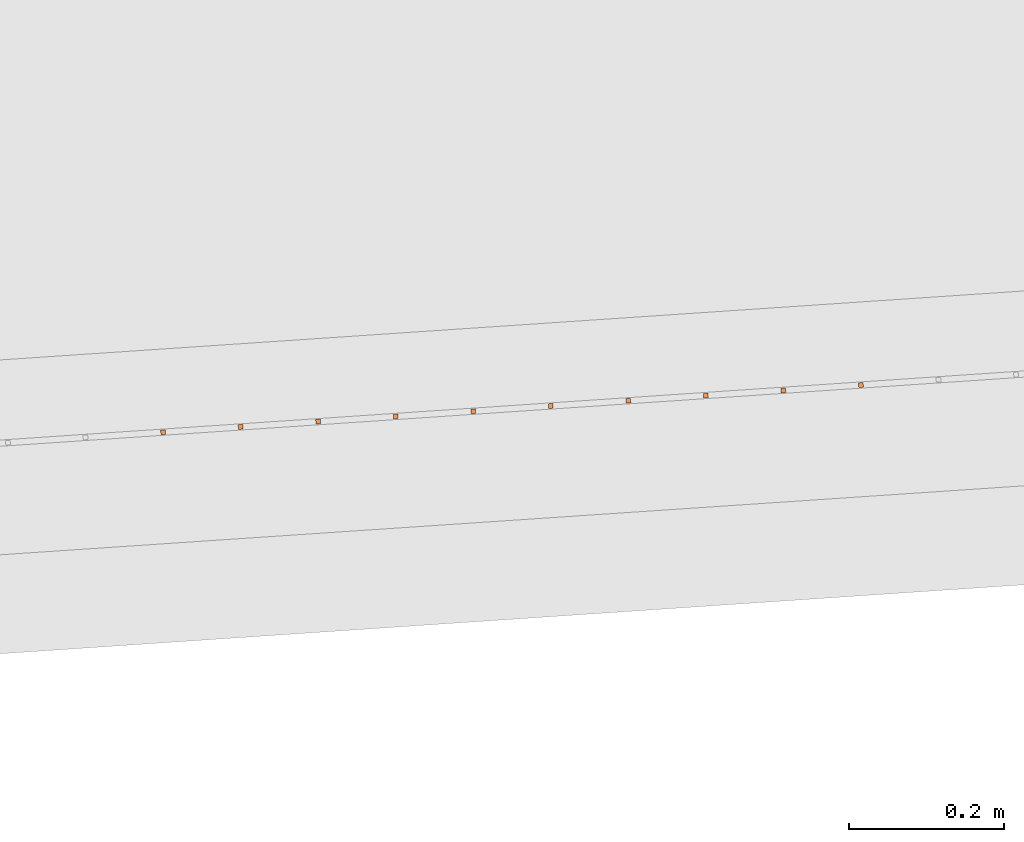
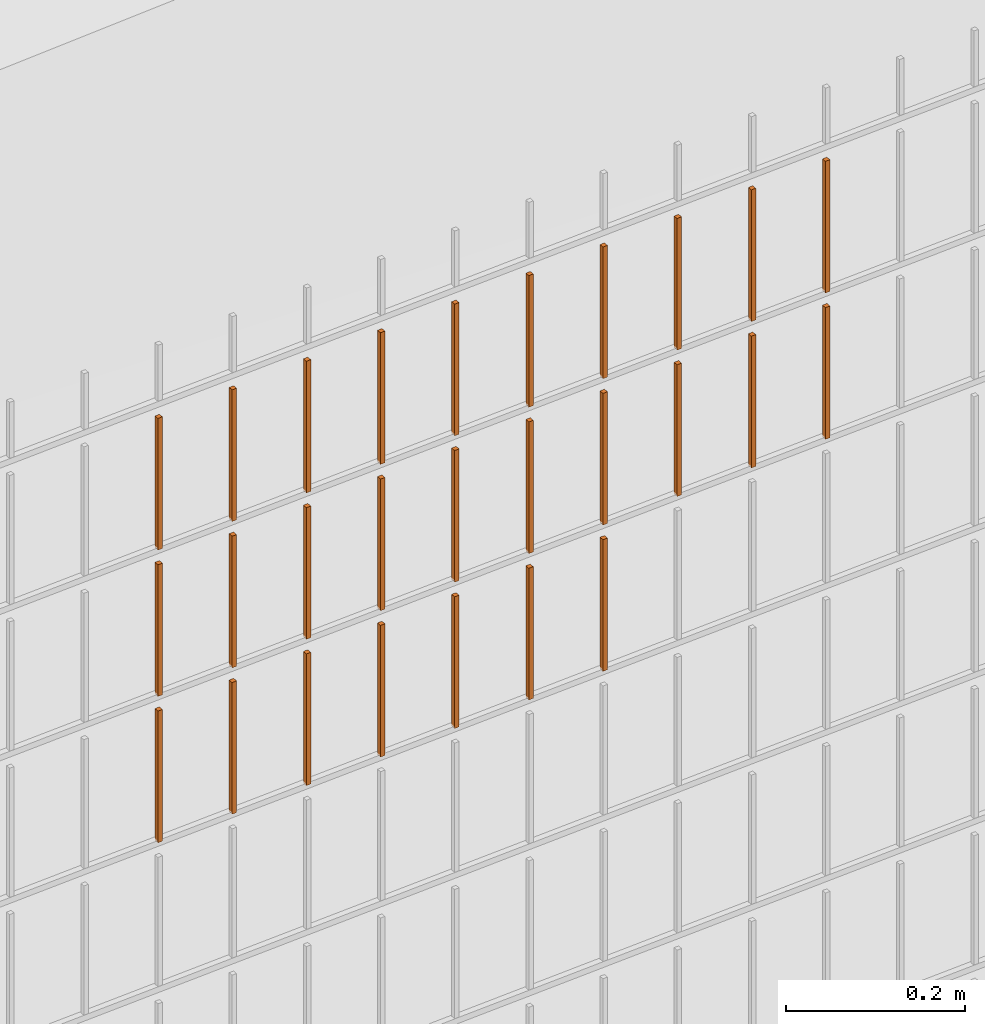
# One storey, part 312 of 1809: 27 proxies, 1 element without a shape of its own.
"""IFC2X3 building model written with IfcOpenShell, lengths in millimetres."""

from ifc_helpers import new_model, entity, si_unit, converted_unit, derived_unit, money_unit, direction, frame, origin_with_axes, place, context, subcontext, project, spatial, faceted_brep, source, transform, mapped, material, type_object, element, aggregate, save


model = new_model("IFC2X3")

# Units and contexts
model_context = context("Model", 3, precision=0.01, world=origin_with_axes(), true_north=direction((0.0, 1.0)))
body_context = subcontext(model_context, "Body", "Model", "MODEL_VIEW")
ifc_project = project(units=[si_unit("LENGTHUNIT", "METRE", prefix="MILLI"), si_unit("AREAUNIT", "SQUARE_METRE"), si_unit("VOLUMEUNIT", "CUBIC_METRE"), converted_unit("PLANEANGLEUNIT", "DEGREE", entity("IfcPlaneAngleMeasure", 0.0174532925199), si_unit("PLANEANGLEUNIT", "RADIAN"), dimensions=[0, 0, 0, 0, 0, 0, 0]), si_unit("SOLIDANGLEUNIT", "STERADIAN"), money_unit("EUR"), converted_unit("TIMEUNIT", "Year", entity("IfcTimeMeasure", 31556926.0), si_unit("TIMEUNIT", "SECOND"), dimensions=[0, 0, 1, 0, 0, 0, 0]), si_unit("MASSUNIT", "GRAM", prefix="KILO"), si_unit("THERMODYNAMICTEMPERATUREUNIT", "DEGREE_CELSIUS"), si_unit("LUMINOUSINTENSITYUNIT", "LUMEN"), si_unit("ENERGYUNIT", "JOULE", prefix="MEGA"), derived_unit("THERMALCONDUCTANCEUNIT", [(si_unit("POWERUNIT", "WATT"), 1), (si_unit("LENGTHUNIT", "METRE"), -1), (si_unit("THERMODYNAMICTEMPERATUREUNIT", "KELVIN"), -1)]), derived_unit("SPECIFICHEATCAPACITYUNIT", [(si_unit("ENERGYUNIT", "JOULE"), 1), (si_unit("MASSUNIT", "GRAM", prefix="KILO"), -1), (si_unit("THERMODYNAMICTEMPERATUREUNIT", "KELVIN"), -1)]), derived_unit("MASSDENSITYUNIT", [(si_unit("MASSUNIT", "GRAM", prefix="KILO"), 1), (si_unit("VOLUMEUNIT", "CUBIC_METRE"), -1)])], contexts=[model_context])

# Site, building, storey
site_placement = place(None, origin_with_axes())
site = spatial("IfcSite", under=ifc_project, at=site_placement, Name="Politse- ja Piirivalveameti ning Päästeameti ühishoone", CompositionType="ELEMENT")
building_placement = place(site_placement, origin_with_axes())
building = spatial("IfcBuilding", under=site, at=building_placement, Name="Politse- ja Piirivalveameti ning Päästeameti ühishoone", CompositionType="ELEMENT")
storey_placement = place(building_placement, origin_with_axes())
storey = spatial("IfcBuildingStorey", under=building, at=storey_placement, Name="Esimene korrus", CompositionType="ELEMENT", Elevation=0.0)

# Proxies
building_element_proxy_type_1 = type_object("IfcBuildingElementProxyType", Name="Railing Type", PredefinedType="NOTDEFINED")
proxy_1_placement = place(storey_placement, frame((89252.001212, -29183.4766571, 203.661247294), z_axis=(0.0, 0.0, 1.0), x_axis=(1.0, 0.0, 0.0)))
proxy_1 = element("IfcBuildingElementProxy", 1, at=proxy_1_placement, inside=storey, type_object=building_element_proxy_type_1, Name="PIIRDEAED")
ifc_material = material(Name="ET-03_Raud")
building_element_proxy_type_2 = type_object("IfcBuildingElementProxyType", Name="IfcBuildingElementProxy", PredefinedType="NOTDEFINED")
shared_shape_1 = source(origin_with_axes(), body_context, "Body", "Brep", [
    faceted_brep([(3.0, 3.0, -0.000752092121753), (-3.0, 3.0, -0.000752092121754), (-3.0, 3.0, 179.99926046), (3.0, 3.0, 179.99926046), (3.0, -3.0, 0.000752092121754), (-3.0, -3.0, 0.000752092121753), (-3.0, -3.0, 180.000764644), (3.0, -3.0, 180.000764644)], [[[0, 1, 2, 3]], [[0, 4, 5, 1]], [[1, 5, 6, 2]], [[3, 2, 6, 7]], [[4, 0, 3, 7]], [[5, 4, 7, 6]]]),
])
proxy_2_placement = place(proxy_1_placement, frame((-41033.1876878, -20069.4117363, 1416.92403284), z_axis=(0.0, 0.0, 1.0), x_axis=(1.0, 0.0, 0.0)))
proxy_2 = element("IfcBuildingElementProxy", 2, at=proxy_2_placement, type_object=building_element_proxy_type_2, material=ifc_material, Name="BALUSTER - 001", context=body_context, shape_type="MappedRepresentation", body=[
    mapped(shared_shape_1, transform((0.0, 0.0, 0.0), x_axis=(-0.0673926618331, 0.997726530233, 0.0), y_axis=(-0.997726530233, -0.0673926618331, 0.0), z_axis=(0.0, 0.0, 1.0))),
])
shared_shape_2 = source(origin_with_axes(), body_context, "Body", "Brep", [
    faceted_brep([(3.0, 3.0, -0.000752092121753), (-3.0, 3.0, -0.000752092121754), (-3.0, 3.0, 179.99926046), (3.0, 3.0, 179.99926046), (3.0, -3.0, 0.000752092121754), (-3.0, -3.0, 0.000752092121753), (-3.0, -3.0, 180.000764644), (3.0, -3.0, 180.000764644)], [[[0, 1, 2, 3]], [[0, 4, 5, 1]], [[1, 5, 6, 2]], [[3, 2, 6, 7]], [[4, 0, 3, 7]], [[5, 4, 7, 6]]]),
])
proxy_3_placement = place(proxy_1_placement, frame((-41033.1876878, -20069.4117363, 1816.92403284), z_axis=(0.0, 0.0, 1.0), x_axis=(1.0, 0.0, 0.0)))
proxy_3 = element("IfcBuildingElementProxy", 3, at=proxy_3_placement, type_object=building_element_proxy_type_2, material=ifc_material, Name="BALUSTER - 001", context=body_context, shape_type="MappedRepresentation", body=[
    mapped(shared_shape_2, transform((0.0, 0.0, 0.0), x_axis=(-0.0673926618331, 0.997726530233, 0.0), y_axis=(-0.997726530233, -0.0673926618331, 0.0), z_axis=(0.0, 0.0, 1.0))),
])
shared_shape_3 = source(origin_with_axes(), body_context, "Body", "Brep", [
    faceted_brep([(3.0, 3.0, -0.000752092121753), (-3.0, 3.0, -0.000752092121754), (-3.0, 3.0, 179.99926046), (3.0, 3.0, 179.99926046), (3.0, -3.0, 0.000752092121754), (-3.0, -3.0, 0.000752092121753), (-3.0, -3.0, 180.000764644), (3.0, -3.0, 180.000764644)], [[[0, 1, 2, 3]], [[0, 4, 5, 1]], [[1, 5, 6, 2]], [[3, 2, 6, 7]], [[4, 0, 3, 7]], [[5, 4, 7, 6]]]),
])
proxy_4_placement = place(proxy_1_placement, frame((-41033.1876878, -20069.4117363, 1616.92403284), z_axis=(0.0, 0.0, 1.0), x_axis=(1.0, 0.0, 0.0)))
proxy_4 = element("IfcBuildingElementProxy", 4, at=proxy_4_placement, type_object=building_element_proxy_type_2, material=ifc_material, Name="BALUSTER - 001", context=body_context, shape_type="MappedRepresentation", body=[
    mapped(shared_shape_3, transform((0.0, 0.0, 0.0), x_axis=(-0.0673926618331, 0.997726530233, 0.0), y_axis=(-0.997726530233, -0.0673926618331, 0.0), z_axis=(0.0, 0.0, 1.0))),
])
shared_shape_4 = source(origin_with_axes(), body_context, "Body", "Brep", [
    faceted_brep([(3.0, 3.0, -0.000752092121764), (-3.0, 3.0, -0.000752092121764), (-3.0, 3.0, 179.99926046), (3.0, 3.0, 179.99926046), (3.0, -3.0, 0.000752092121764), (-3.0, -3.0, 0.000752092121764), (-3.0, -3.0, 180.000764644), (3.0, -3.0, 180.000764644)], [[[0, 1, 2, 3]], [[0, 4, 5, 1]], [[1, 5, 6, 2]], [[3, 2, 6, 7]], [[4, 0, 3, 7]], [[5, 4, 7, 6]]]),
])
proxy_5_placement = place(proxy_1_placement, frame((-40933.4150347, -20062.6724701, 1616.94910258), z_axis=(0.0, 0.0, 1.0), x_axis=(1.0, 0.0, 0.0)))
proxy_5 = element("IfcBuildingElementProxy", 5, at=proxy_5_placement, type_object=building_element_proxy_type_2, material=ifc_material, Name="BALUSTER - 001", context=body_context, shape_type="MappedRepresentation", body=[
    mapped(shared_shape_4, transform((0.0, 0.0, 0.0), x_axis=(-0.0673926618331, 0.997726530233, 0.0), y_axis=(-0.997726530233, -0.0673926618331, 0.0), z_axis=(0.0, 0.0, 1.0))),
])
proxy_6_placement = place(proxy_1_placement, frame((-40235.0064636, -20015.4976068, 1817.12459074), z_axis=(0.0, 0.0, 1.0), x_axis=(1.0, 0.0, 0.0)))
proxy_6 = element("IfcBuildingElementProxy", 6, at=proxy_6_placement, type_object=building_element_proxy_type_2, material=ifc_material, Name="BALUSTER - 001", context=body_context, shape_type="MappedRepresentation", body=[
    mapped(shared_shape_4, transform((0.0, 0.0, 0.0), x_axis=(-0.0673926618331, 0.997726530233, 0.0), y_axis=(-0.997726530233, -0.0673926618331, 0.0), z_axis=(0.0, 0.0, 1.0))),
])
proxy_7_placement = place(proxy_1_placement, frame((-40833.6423817, -20055.9332039, 1816.97417231), z_axis=(0.0, 0.0, 1.0), x_axis=(1.0, 0.0, 0.0)))
proxy_7 = element("IfcBuildingElementProxy", 7, at=proxy_7_placement, type_object=building_element_proxy_type_2, material=ifc_material, Name="BALUSTER - 001", context=body_context, shape_type="MappedRepresentation", body=[
    mapped(shared_shape_4, transform((0.0, 0.0, 0.0), x_axis=(-0.0673926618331, 0.997726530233, 0.0), y_axis=(-0.997726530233, -0.0673926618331, 0.0), z_axis=(0.0, 0.0, 1.0))),
])
shared_shape_5 = source(origin_with_axes(), body_context, "Body", "Brep", [
    faceted_brep([(3.0, 3.0, -0.000752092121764), (-3.0, 3.0, -0.000752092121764), (-3.0, 3.0, 179.99926046), (3.0, 3.0, 179.99926046), (3.0, -3.0, 0.000752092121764), (-3.0, -3.0, 0.000752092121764), (-3.0, -3.0, 180.000764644), (3.0, -3.0, 180.000764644)], [[[0, 1, 2, 3]], [[0, 4, 5, 1]], [[1, 5, 6, 2]], [[3, 2, 6, 7]], [[4, 0, 3, 7]], [[5, 4, 7, 6]]]),
])
proxy_8_placement = place(proxy_1_placement, frame((-40534.3244226, -20035.7154053, 1417.04938153), z_axis=(0.0, 0.0, 1.0), x_axis=(1.0, 0.0, 0.0)))
proxy_8 = element("IfcBuildingElementProxy", 8, at=proxy_8_placement, type_object=building_element_proxy_type_2, material=ifc_material, Name="BALUSTER - 001", context=body_context, shape_type="MappedRepresentation", body=[
    mapped(shared_shape_5, transform((0.0, 0.0, 0.0), x_axis=(-0.0673926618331, 0.997726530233, 0.0), y_axis=(-0.997726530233, -0.0673926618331, 0.0), z_axis=(0.0, 0.0, 1.0))),
])
shared_shape_6 = source(origin_with_axes(), body_context, "Body", "Brep", [
    faceted_brep([(3.0, 3.0, -0.000752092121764), (-3.0, 3.0, -0.000752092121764), (-3.0, 3.0, 179.99926046), (3.0, 3.0, 179.99926046), (3.0, -3.0, 0.000752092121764), (-3.0, -3.0, 0.000752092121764), (-3.0, -3.0, 180.000764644), (3.0, -3.0, 180.000764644)], [[[0, 1, 2, 3]], [[0, 4, 5, 1]], [[1, 5, 6, 2]], [[3, 2, 6, 7]], [[4, 0, 3, 7]], [[5, 4, 7, 6]]]),
])
proxy_9_placement = place(proxy_1_placement, frame((-40534.3244226, -20035.7154053, 1817.04938153), z_axis=(0.0, 0.0, 1.0), x_axis=(1.0, 0.0, 0.0)))
proxy_9 = element("IfcBuildingElementProxy", 9, at=proxy_9_placement, type_object=building_element_proxy_type_2, material=ifc_material, Name="BALUSTER - 001", context=body_context, shape_type="MappedRepresentation", body=[
    mapped(shared_shape_6, transform((0.0, 0.0, 0.0), x_axis=(-0.0673926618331, 0.997726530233, 0.0), y_axis=(-0.997726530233, -0.0673926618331, 0.0), z_axis=(0.0, 0.0, 1.0))),
])
shared_shape_7 = source(origin_with_axes(), body_context, "Body", "Brep", [
    faceted_brep([(3.0, 3.0, -0.000752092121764), (-3.0, 3.0, -0.000752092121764), (-3.0, 3.0, 179.99926046), (3.0, 3.0, 179.99926046), (3.0, -3.0, 0.000752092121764), (-3.0, -3.0, 0.000752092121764), (-3.0, -3.0, 180.000764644), (3.0, -3.0, 180.000764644)], [[[0, 1, 2, 3]], [[0, 4, 5, 1]], [[1, 5, 6, 2]], [[3, 2, 6, 7]], [[4, 0, 3, 7]], [[5, 4, 7, 6]]]),
])
proxy_10_placement = place(proxy_1_placement, frame((-40235.0064636, -20015.4976068, 1617.12459074), z_axis=(0.0, 0.0, 1.0), x_axis=(1.0, 0.0, 0.0)))
proxy_10 = element("IfcBuildingElementProxy", 10, at=proxy_10_placement, type_object=building_element_proxy_type_2, material=ifc_material, Name="BALUSTER - 001", context=body_context, shape_type="MappedRepresentation", body=[
    mapped(shared_shape_7, transform((0.0, 0.0, 0.0), x_axis=(-0.0673926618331, 0.997726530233, 0.0), y_axis=(-0.997726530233, -0.0673926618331, 0.0), z_axis=(0.0, 0.0, 1.0))),
])
proxy_11_placement = place(proxy_1_placement, frame((-40933.4150347, -20062.6724701, 1816.94910258), z_axis=(0.0, 0.0, 1.0), x_axis=(1.0, 0.0, 0.0)))
proxy_11 = element("IfcBuildingElementProxy", 11, at=proxy_11_placement, type_object=building_element_proxy_type_2, material=ifc_material, Name="BALUSTER - 001", context=body_context, shape_type="MappedRepresentation", body=[
    mapped(shared_shape_7, transform((0.0, 0.0, 0.0), x_axis=(-0.0673926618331, 0.997726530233, 0.0), y_axis=(-0.997726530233, -0.0673926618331, 0.0), z_axis=(0.0, 0.0, 1.0))),
])
shared_shape_8 = source(origin_with_axes(), body_context, "Body", "Brep", [
    faceted_brep([(3.0, 3.0, -0.000752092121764), (-3.0, 3.0, -0.000752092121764), (-3.0, 3.0, 179.99926046), (3.0, 3.0, 179.99926046), (3.0, -3.0, 0.000752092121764), (-3.0, -3.0, 0.000752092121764), (-3.0, -3.0, 180.000764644), (3.0, -3.0, 180.000764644)], [[[0, 1, 2, 3]], [[0, 4, 5, 1]], [[1, 5, 6, 2]], [[3, 2, 6, 7]], [[4, 0, 3, 7]], [[5, 4, 7, 6]]]),
])
proxy_12_placement = place(proxy_1_placement, frame((-40534.3244226, -20035.7154053, 1617.04938153), z_axis=(0.0, 0.0, 1.0), x_axis=(1.0, 0.0, 0.0)))
proxy_12 = element("IfcBuildingElementProxy", 12, at=proxy_12_placement, type_object=building_element_proxy_type_2, material=ifc_material, Name="BALUSTER - 001", context=body_context, shape_type="MappedRepresentation", body=[
    mapped(shared_shape_8, transform((0.0, 0.0, 0.0), x_axis=(-0.0673926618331, 0.997726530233, 0.0), y_axis=(-0.997726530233, -0.0673926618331, 0.0), z_axis=(0.0, 0.0, 1.0))),
])
shared_shape_9 = source(origin_with_axes(), body_context, "Body", "Brep", [
    faceted_brep([(3.0, 3.0, -0.000752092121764), (-3.0, 3.0, -0.000752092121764), (-3.0, 3.0, 179.99926046), (3.0, 3.0, 179.99926046), (3.0, -3.0, 0.000752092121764), (-3.0, -3.0, 0.000752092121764), (-3.0, -3.0, 180.000764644), (3.0, -3.0, 180.000764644)], [[[0, 1, 2, 3]], [[0, 4, 5, 1]], [[1, 5, 6, 2]], [[3, 2, 6, 7]], [[4, 0, 3, 7]], [[5, 4, 7, 6]]]),
])
proxy_13_placement = place(proxy_1_placement, frame((-40933.4150347, -20062.6724701, 1416.94910258), z_axis=(0.0, 0.0, 1.0), x_axis=(1.0, 0.0, 0.0)))
proxy_13 = element("IfcBuildingElementProxy", 13, at=proxy_13_placement, type_object=building_element_proxy_type_2, material=ifc_material, Name="BALUSTER - 001", context=body_context, shape_type="MappedRepresentation", body=[
    mapped(shared_shape_9, transform((0.0, 0.0, 0.0), x_axis=(-0.0673926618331, 0.997726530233, 0.0), y_axis=(-0.997726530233, -0.0673926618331, 0.0), z_axis=(0.0, 0.0, 1.0))),
])
shared_shape_10 = source(origin_with_axes(), body_context, "Body", "Brep", [
    faceted_brep([(3.0, 3.0, -0.000752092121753), (-3.0, 3.0, -0.000752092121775), (-3.0, 3.0, 179.99926046), (3.0, 3.0, 179.99926046), (3.0, -3.0, 0.000752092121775), (-3.0, -3.0, 0.000752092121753), (-3.0, -3.0, 180.000764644), (3.0, -3.0, 180.000764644)], [[[0, 1, 2, 3]], [[0, 4, 5, 1]], [[1, 5, 6, 2]], [[3, 2, 6, 7]], [[4, 0, 3, 7]], [[5, 4, 7, 6]]]),
])
proxy_14_placement = place(proxy_1_placement, frame((-41132.9603408, -20076.1510024, 1816.8989631), z_axis=(0.0, 0.0, 1.0), x_axis=(1.0, 0.0, 0.0)))
proxy_14 = element("IfcBuildingElementProxy", 14, at=proxy_14_placement, type_object=building_element_proxy_type_2, material=ifc_material, Name="BALUSTER - 001", context=body_context, shape_type="MappedRepresentation", body=[
    mapped(shared_shape_10, transform((0.0, 0.0, 0.0), x_axis=(-0.0673926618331, 0.997726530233, 0.0), y_axis=(-0.997726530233, -0.0673926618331, 0.0), z_axis=(0.0, 0.0, 1.0))),
])
shared_shape_11 = source(origin_with_axes(), body_context, "Body", "Brep", [
    faceted_brep([(3.0, 3.0, -0.000752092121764), (-3.0, 3.0, -0.000752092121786), (-3.0, 3.0, 179.99926046), (3.0, 3.0, 179.99926046), (3.0, -3.0, 0.000752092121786), (-3.0, -3.0, 0.000752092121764), (-3.0, -3.0, 180.000764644), (3.0, -3.0, 180.000764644)], [[[0, 1, 2, 3]], [[0, 4, 5, 1]], [[1, 5, 6, 2]], [[3, 2, 6, 7]], [[4, 0, 3, 7]], [[5, 4, 7, 6]]]),
])
proxy_15_placement = place(proxy_1_placement, frame((-40434.5517696, -20028.9761392, 1817.07445126), z_axis=(0.0, 0.0, 1.0), x_axis=(1.0, 0.0, 0.0)))
proxy_15 = element("IfcBuildingElementProxy", 15, at=proxy_15_placement, type_object=building_element_proxy_type_2, material=ifc_material, Name="BALUSTER - 001", context=body_context, shape_type="MappedRepresentation", body=[
    mapped(shared_shape_11, transform((0.0, 0.0, 0.0), x_axis=(-0.0673926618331, 0.997726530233, 0.0), y_axis=(-0.997726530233, -0.0673926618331, 0.0), z_axis=(0.0, 0.0, 1.0))),
])
shared_shape_12 = source(origin_with_axes(), body_context, "Body", "Brep", [
    faceted_brep([(3.0, 3.0, -0.000752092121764), (-3.0, 3.0, -0.000752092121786), (-3.0, 3.0, 179.99926046), (3.0, 3.0, 179.99926046), (3.0, -3.0, 0.000752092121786), (-3.0, -3.0, 0.000752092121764), (-3.0, -3.0, 180.000764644), (3.0, -3.0, 180.000764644)], [[[0, 1, 2, 3]], [[0, 4, 5, 1]], [[1, 5, 6, 2]], [[3, 2, 6, 7]], [[4, 0, 3, 7]], [[5, 4, 7, 6]]]),
])
proxy_16_placement = place(proxy_1_placement, frame((-40434.5517696, -20028.9761392, 1617.07445126), z_axis=(0.0, 0.0, 1.0), x_axis=(1.0, 0.0, 0.0)))
proxy_16 = element("IfcBuildingElementProxy", 16, at=proxy_16_placement, type_object=building_element_proxy_type_2, material=ifc_material, Name="BALUSTER - 001", context=body_context, shape_type="MappedRepresentation", body=[
    mapped(shared_shape_12, transform((0.0, 0.0, 0.0), x_axis=(-0.0673926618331, 0.997726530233, 0.0), y_axis=(-0.997726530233, -0.0673926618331, 0.0), z_axis=(0.0, 0.0, 1.0))),
])
shared_shape_13 = source(origin_with_axes(), body_context, "Body", "Brep", [
    faceted_brep([(3.0, 3.0, -0.000752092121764), (-3.0, 3.0, -0.000752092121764), (-3.0, 3.0, 179.99926046), (3.0, 3.0, 179.99926046), (3.0, -3.0, 0.000752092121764), (-3.0, -3.0, 0.000752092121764), (-3.0, -3.0, 180.000764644), (3.0, -3.0, 180.000764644)], [[[0, 1, 2, 3]], [[0, 4, 5, 1]], [[1, 5, 6, 2]], [[3, 2, 6, 7]], [[4, 0, 3, 7]], [[5, 4, 7, 6]]]),
])
proxy_17_placement = place(proxy_1_placement, frame((-40733.8697287, -20049.1939377, 1816.99924205), z_axis=(0.0, 0.0, 1.0), x_axis=(1.0, 0.0, 0.0)))
proxy_17 = element("IfcBuildingElementProxy", 17, at=proxy_17_placement, type_object=building_element_proxy_type_2, material=ifc_material, Name="BALUSTER - 001", context=body_context, shape_type="MappedRepresentation", body=[
    mapped(shared_shape_13, transform((0.0, 0.0, 0.0), x_axis=(-0.0673926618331, 0.997726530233, 0.0), y_axis=(-0.997726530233, -0.0673926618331, 0.0), z_axis=(0.0, 0.0, 1.0))),
])
shared_shape_14 = source(origin_with_axes(), body_context, "Body", "Brep", [
    faceted_brep([(3.0, 3.0, -0.000752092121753), (-3.0, 3.0, -0.000752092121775), (-3.0, 3.0, 179.99926046), (3.0, 3.0, 179.99926046), (3.0, -3.0, 0.000752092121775), (-3.0, -3.0, 0.000752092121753), (-3.0, -3.0, 180.000764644), (3.0, -3.0, 180.000764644)], [[[0, 1, 2, 3]], [[0, 4, 5, 1]], [[1, 5, 6, 2]], [[3, 2, 6, 7]], [[4, 0, 3, 7]], [[5, 4, 7, 6]]]),
])
proxy_18_placement = place(proxy_1_placement, frame((-40634.0970757, -20042.4546715, 1817.02431179), z_axis=(0.0, 0.0, 1.0), x_axis=(1.0, 0.0, 0.0)))
proxy_18 = element("IfcBuildingElementProxy", 18, at=proxy_18_placement, type_object=building_element_proxy_type_2, material=ifc_material, Name="BALUSTER - 001", context=body_context, shape_type="MappedRepresentation", body=[
    mapped(shared_shape_14, transform((0.0, 0.0, 0.0), x_axis=(-0.0673926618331, 0.997726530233, 0.0), y_axis=(-0.997726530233, -0.0673926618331, 0.0), z_axis=(0.0, 0.0, 1.0))),
])
shared_shape_15 = source(origin_with_axes(), body_context, "Body", "Brep", [
    faceted_brep([(3.0, 3.0, -0.000752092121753), (-3.0, 3.0, -0.000752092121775), (-3.0, 3.0, 179.99926046), (3.0, 3.0, 179.99926046), (3.0, -3.0, 0.000752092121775), (-3.0, -3.0, 0.000752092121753), (-3.0, -3.0, 180.000764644), (3.0, -3.0, 180.000764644)], [[[0, 1, 2, 3]], [[0, 4, 5, 1]], [[1, 5, 6, 2]], [[3, 2, 6, 7]], [[4, 0, 3, 7]], [[5, 4, 7, 6]]]),
])
proxy_19_placement = place(proxy_1_placement, frame((-40634.0970757, -20042.4546715, 1417.02431179), z_axis=(0.0, 0.0, 1.0), x_axis=(1.0, 0.0, 0.0)))
proxy_19 = element("IfcBuildingElementProxy", 19, at=proxy_19_placement, type_object=building_element_proxy_type_2, material=ifc_material, Name="BALUSTER - 001", context=body_context, shape_type="MappedRepresentation", body=[
    mapped(shared_shape_15, transform((0.0, 0.0, 0.0), x_axis=(-0.0673926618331, 0.997726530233, 0.0), y_axis=(-0.997726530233, -0.0673926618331, 0.0), z_axis=(0.0, 0.0, 1.0))),
])
shared_shape_16 = source(origin_with_axes(), body_context, "Body", "Brep", [
    faceted_brep([(3.0, 3.0, -0.000752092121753), (-3.0, 3.0, -0.000752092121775), (-3.0, 3.0, 179.99926046), (3.0, 3.0, 179.99926046), (3.0, -3.0, 0.000752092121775), (-3.0, -3.0, 0.000752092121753), (-3.0, -3.0, 180.000764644), (3.0, -3.0, 180.000764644)], [[[0, 1, 2, 3]], [[0, 4, 5, 1]], [[1, 5, 6, 2]], [[3, 2, 6, 7]], [[4, 0, 3, 7]], [[5, 4, 7, 6]]]),
])
proxy_20_placement = place(proxy_1_placement, frame((-41132.9603408, -20076.1510024, 1416.8989631), z_axis=(0.0, 0.0, 1.0), x_axis=(1.0, 0.0, 0.0)))
proxy_20 = element("IfcBuildingElementProxy", 20, at=proxy_20_placement, type_object=building_element_proxy_type_2, material=ifc_material, Name="BALUSTER - 001", context=body_context, shape_type="MappedRepresentation", body=[
    mapped(shared_shape_16, transform((0.0, 0.0, 0.0), x_axis=(-0.0673926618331, 0.997726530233, 0.0), y_axis=(-0.997726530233, -0.0673926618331, 0.0), z_axis=(0.0, 0.0, 1.0))),
])
proxy_21_placement = place(proxy_1_placement, frame((-41132.9603408, -20076.1510024, 1616.8989631), z_axis=(0.0, 0.0, 1.0), x_axis=(1.0, 0.0, 0.0)))
proxy_21 = element("IfcBuildingElementProxy", 21, at=proxy_21_placement, type_object=building_element_proxy_type_2, material=ifc_material, Name="BALUSTER - 001", context=body_context, shape_type="MappedRepresentation", body=[
    mapped(shared_shape_16, transform((0.0, 0.0, 0.0), x_axis=(-0.0673926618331, 0.997726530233, 0.0), y_axis=(-0.997726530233, -0.0673926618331, 0.0), z_axis=(0.0, 0.0, 1.0))),
])
shared_shape_17 = source(origin_with_axes(), body_context, "Body", "Brep", [
    faceted_brep([(3.0, 3.0, -0.000752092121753), (-3.0, 3.0, -0.000752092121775), (-3.0, 3.0, 179.99926046), (3.0, 3.0, 179.99926046), (3.0, -3.0, 0.000752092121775), (-3.0, -3.0, 0.000752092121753), (-3.0, -3.0, 180.000764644), (3.0, -3.0, 180.000764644)], [[[0, 1, 2, 3]], [[0, 4, 5, 1]], [[1, 5, 6, 2]], [[3, 2, 6, 7]], [[4, 0, 3, 7]], [[5, 4, 7, 6]]]),
])
proxy_22_placement = place(proxy_1_placement, frame((-40634.0970757, -20042.4546715, 1617.02431179), z_axis=(0.0, 0.0, 1.0), x_axis=(1.0, 0.0, 0.0)))
proxy_22 = element("IfcBuildingElementProxy", 22, at=proxy_22_placement, type_object=building_element_proxy_type_2, material=ifc_material, Name="BALUSTER - 001", context=body_context, shape_type="MappedRepresentation", body=[
    mapped(shared_shape_17, transform((0.0, 0.0, 0.0), x_axis=(-0.0673926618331, 0.997726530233, 0.0), y_axis=(-0.997726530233, -0.0673926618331, 0.0), z_axis=(0.0, 0.0, 1.0))),
])
shared_shape_18 = source(origin_with_axes(), body_context, "Body", "Brep", [
    faceted_brep([(3.0, 3.0, -0.000752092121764), (-3.0, 3.0, -0.000752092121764), (-3.0, 3.0, 179.99926046), (3.0, 3.0, 179.99926046), (3.0, -3.0, 0.000752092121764), (-3.0, -3.0, 0.000752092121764), (-3.0, -3.0, 180.000764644), (3.0, -3.0, 180.000764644)], [[[0, 1, 2, 3]], [[0, 4, 5, 1]], [[1, 5, 6, 2]], [[3, 2, 6, 7]], [[4, 0, 3, 7]], [[5, 4, 7, 6]]]),
])
proxy_23_placement = place(proxy_1_placement, frame((-40334.7791166, -20022.236873, 1817.099521), z_axis=(0.0, 0.0, 1.0), x_axis=(1.0, 0.0, 0.0)))
proxy_23 = element("IfcBuildingElementProxy", 23, at=proxy_23_placement, type_object=building_element_proxy_type_2, material=ifc_material, Name="BALUSTER - 001", context=body_context, shape_type="MappedRepresentation", body=[
    mapped(shared_shape_18, transform((0.0, 0.0, 0.0), x_axis=(-0.0673926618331, 0.997726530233, 0.0), y_axis=(-0.997726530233, -0.0673926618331, 0.0), z_axis=(0.0, 0.0, 1.0))),
])
shared_shape_19 = source(origin_with_axes(), body_context, "Body", "Brep", [
    faceted_brep([(3.0, 3.0, -0.000752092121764), (-3.0, 3.0, -0.000752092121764), (-3.0, 3.0, 179.99926046), (3.0, 3.0, 179.99926046), (3.0, -3.0, 0.000752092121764), (-3.0, -3.0, 0.000752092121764), (-3.0, -3.0, 180.000764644), (3.0, -3.0, 180.000764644)], [[[0, 1, 2, 3]], [[0, 4, 5, 1]], [[1, 5, 6, 2]], [[3, 2, 6, 7]], [[4, 0, 3, 7]], [[5, 4, 7, 6]]]),
])
proxy_24_placement = place(proxy_1_placement, frame((-40733.8697287, -20049.1939377, 1416.99924205), z_axis=(0.0, 0.0, 1.0), x_axis=(1.0, 0.0, 0.0)))
proxy_24 = element("IfcBuildingElementProxy", 24, at=proxy_24_placement, type_object=building_element_proxy_type_2, material=ifc_material, Name="BALUSTER - 001", context=body_context, shape_type="MappedRepresentation", body=[
    mapped(shared_shape_19, transform((0.0, 0.0, 0.0), x_axis=(-0.0673926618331, 0.997726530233, 0.0), y_axis=(-0.997726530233, -0.0673926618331, 0.0), z_axis=(0.0, 0.0, 1.0))),
])
proxy_25_placement = place(proxy_1_placement, frame((-40733.8697287, -20049.1939377, 1616.99924205), z_axis=(0.0, 0.0, 1.0), x_axis=(1.0, 0.0, 0.0)))
proxy_25 = element("IfcBuildingElementProxy", 25, at=proxy_25_placement, type_object=building_element_proxy_type_2, material=ifc_material, Name="BALUSTER - 001", context=body_context, shape_type="MappedRepresentation", body=[
    mapped(shared_shape_19, transform((0.0, 0.0, 0.0), x_axis=(-0.0673926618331, 0.997726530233, 0.0), y_axis=(-0.997726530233, -0.0673926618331, 0.0), z_axis=(0.0, 0.0, 1.0))),
])
shared_shape_20 = source(origin_with_axes(), body_context, "Body", "Brep", [
    faceted_brep([(3.0, 3.0, -0.000752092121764), (-3.0, 3.0, -0.000752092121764), (-3.0, 3.0, 179.99926046), (3.0, 3.0, 179.99926046), (3.0, -3.0, 0.000752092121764), (-3.0, -3.0, 0.000752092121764), (-3.0, -3.0, 180.000764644), (3.0, -3.0, 180.000764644)], [[[0, 1, 2, 3]], [[0, 4, 5, 1]], [[1, 5, 6, 2]], [[3, 2, 6, 7]], [[4, 0, 3, 7]], [[5, 4, 7, 6]]]),
])
proxy_26_placement = place(proxy_1_placement, frame((-40833.6423817, -20055.9332039, 1416.97417231), z_axis=(0.0, 0.0, 1.0), x_axis=(1.0, 0.0, 0.0)))
proxy_26 = element("IfcBuildingElementProxy", 26, at=proxy_26_placement, type_object=building_element_proxy_type_2, material=ifc_material, Name="BALUSTER - 001", context=body_context, shape_type="MappedRepresentation", body=[
    mapped(shared_shape_20, transform((0.0, 0.0, 0.0), x_axis=(-0.0673926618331, 0.997726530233, 0.0), y_axis=(-0.997726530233, -0.0673926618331, 0.0), z_axis=(0.0, 0.0, 1.0))),
])
proxy_27_placement = place(proxy_1_placement, frame((-40833.6423817, -20055.9332039, 1616.97417231), z_axis=(0.0, 0.0, 1.0), x_axis=(1.0, 0.0, 0.0)))
proxy_27 = element("IfcBuildingElementProxy", 27, at=proxy_27_placement, type_object=building_element_proxy_type_2, material=ifc_material, Name="BALUSTER - 001", context=body_context, shape_type="MappedRepresentation", body=[
    mapped(shared_shape_20, transform((0.0, 0.0, 0.0), x_axis=(-0.0673926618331, 0.997726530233, 0.0), y_axis=(-0.997726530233, -0.0673926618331, 0.0), z_axis=(0.0, 0.0, 1.0))),
])
shared_shape_21 = source(origin_with_axes(), body_context, "Body", "Brep", [
    faceted_brep([(3.0, 3.0, -0.000752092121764), (-3.0, 3.0, -0.000752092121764), (-3.0, 3.0, 179.99926046), (3.0, 3.0, 179.99926046), (3.0, -3.0, 0.000752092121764), (-3.0, -3.0, 0.000752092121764), (-3.0, -3.0, 180.000764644), (3.0, -3.0, 180.000764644)], [[[0, 1, 2, 3]], [[0, 4, 5, 1]], [[1, 5, 6, 2]], [[3, 2, 6, 7]], [[4, 0, 3, 7]], [[5, 4, 7, 6]]]),
])
proxy_28_placement = place(proxy_1_placement, frame((-40334.7791166, -20022.236873, 1617.099521), z_axis=(0.0, 0.0, 1.0), x_axis=(1.0, 0.0, 0.0)))
proxy_28 = element("IfcBuildingElementProxy", 28, at=proxy_28_placement, type_object=building_element_proxy_type_2, material=ifc_material, Name="BALUSTER - 001", context=body_context, shape_type="MappedRepresentation", body=[
    mapped(shared_shape_21, transform((0.0, 0.0, 0.0), x_axis=(-0.0673926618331, 0.997726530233, 0.0), y_axis=(-0.997726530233, -0.0673926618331, 0.0), z_axis=(0.0, 0.0, 1.0))),
])
aggregate(proxy_1, [proxy_8, proxy_19, proxy_24, proxy_26, proxy_13, proxy_2, proxy_20, proxy_10, proxy_28, proxy_16, proxy_12, proxy_22, proxy_25, proxy_27, proxy_5, proxy_4, proxy_21, proxy_6, proxy_23, proxy_15, proxy_9, proxy_18, proxy_17, proxy_7, proxy_11, proxy_3, proxy_14])

save(model, "model.ifc")
